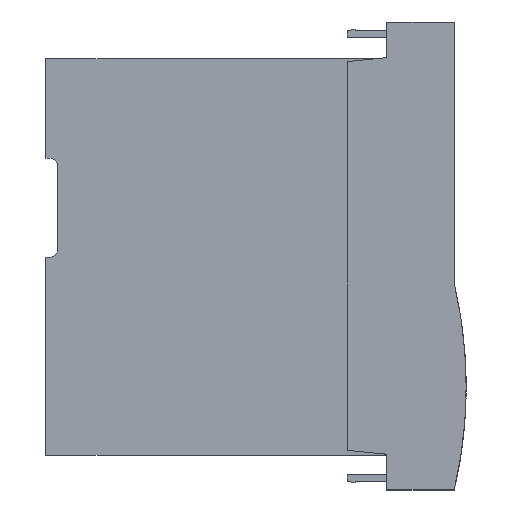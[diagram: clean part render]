
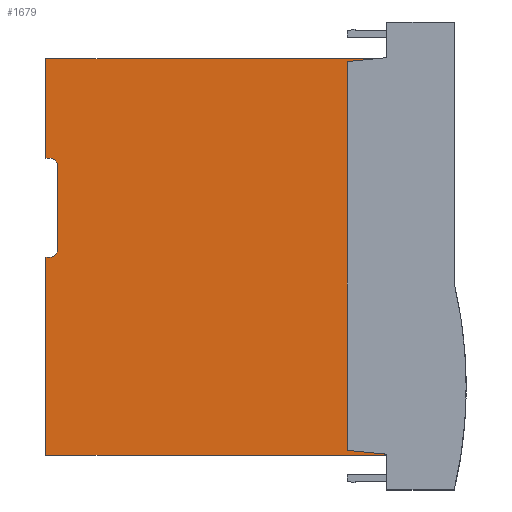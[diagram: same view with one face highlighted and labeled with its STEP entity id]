
A CAD part, top view. The second image highlights one B-rep face of the part: STEP entity #1679.
In plain terms, the highlighted planar face has unit normal (0, 0, 1).
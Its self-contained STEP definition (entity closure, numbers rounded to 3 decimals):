
#11 = CARTESIAN_POINT ( 'NONE',  ( -86.5, 1.69, 6.55 ) ) ;
#24 = AXIS2_PLACEMENT_3D ( 'NONE', #230, #973, #1012 ) ;
#43 = CARTESIAN_POINT ( 'NONE',  ( -3.5, 49.69, 6.55 ) ) ;
#65 = AXIS2_PLACEMENT_3D ( 'NONE', #2839, #3084, #3093 ) ;
#174 = LINE ( 'NONE', #1479, #247 ) ;
#204 = LINE ( 'NONE', #1628, #209 ) ;
#209 = VECTOR ( 'NONE', #1661, 1000. ) ;
#230 = CARTESIAN_POINT ( 'NONE',  ( -88.5, 22.69, 6.55 ) ) ;
#247 = VECTOR ( 'NONE', #1492, 1000. ) ;
#283 = VECTOR ( 'NONE', #1272, 1000. ) ;
#313 = LINE ( 'NONE', #2008, #283 ) ;
#356 = CIRCLE ( 'NONE', #3168, 2. ) ;
#372 = DIRECTION ( 'NONE',  ( 0., -1., 0. ) ) ;
#398 = CARTESIAN_POINT ( 'NONE',  ( -39.837, 24.69, 6.55 ) ) ;
#426 = DIRECTION ( 'NONE',  ( 1., 0., 0. ) ) ;
#427 = ORIENTED_EDGE ( 'NONE', *, *, #1792, .T. ) ;
#442 = LINE ( 'NONE', #3008, #453 ) ;
#453 = VECTOR ( 'NONE', #3029, 1000. ) ;
#468 = CARTESIAN_POINT ( 'NONE',  ( -3.5, -49.69, 6.55 ) ) ;
#494 = ORIENTED_EDGE ( 'NONE', *, *, #1743, .T. ) ;
#576 = VECTOR ( 'NONE', #426, 1000. ) ;
#583 = CIRCLE ( 'NONE', #24, 2. ) ;
#609 = DIRECTION ( 'NONE',  ( 0., -1., 0. ) ) ;
#648 = LINE ( 'NONE', #398, #576 ) ;
#649 = CARTESIAN_POINT ( 'NONE',  ( -3.5, -50.31, 6.55 ) ) ;
#652 = VECTOR ( 'NONE', #2894, 1000. ) ;
#661 = LINE ( 'NONE', #967, #652 ) ;
#734 = FACE_OUTER_BOUND ( 'NONE', #1320, .T. ) ;
#788 = CARTESIAN_POINT ( 'NONE',  ( 10.5, 49.69, 6.55 ) ) ;
#825 = LINE ( 'NONE', #2824, #829 ) ;
#829 = VECTOR ( 'NONE', #2831, 1000. ) ;
#852 = DIRECTION ( 'NONE',  ( 1., 0., 0. ) ) ;
#896 = VECTOR ( 'NONE', #1898, 1000. ) ;
#899 = LINE ( 'NONE', #1850, #896 ) ;
#938 = VERTEX_POINT ( 'NONE', #2248 ) ;
#943 = LINE ( 'NONE', #1509, #947 ) ;
#947 = VECTOR ( 'NONE', #1580, 1000. ) ;
#967 = CARTESIAN_POINT ( 'NONE',  ( -89.5, -0.177, 6.55 ) ) ;
#973 = DIRECTION ( 'NONE',  ( 0., 0., -1. ) ) ;
#974 = VERTEX_POINT ( 'NONE', #2237 ) ;
#980 = CARTESIAN_POINT ( 'NONE',  ( -39.837, -49.69, 6.55 ) ) ;
#993 = VERTEX_POINT ( 'NONE', #2898 ) ;
#1012 = DIRECTION ( 'NONE',  ( 0., -1., 0. ) ) ;
#1021 = LINE ( 'NONE', #980, #1177 ) ;
#1104 = VERTEX_POINT ( 'NONE', #11 ) ;
#1177 = VECTOR ( 'NONE', #852, 1000. ) ;
#1202 = VERTEX_POINT ( 'NONE', #2077 ) ;
#1237 = VERTEX_POINT ( 'NONE', #3049 ) ;
#1239 = EDGE_CURVE ( 'NONE', #1477, #1281, #2891, .T. ) ;
#1246 = VERTEX_POINT ( 'NONE', #3126 ) ;
#1249 = VERTEX_POINT ( 'NONE', #2690 ) ;
#1272 = DIRECTION ( 'NONE',  ( -1., 0., 0. ) ) ;
#1281 = VERTEX_POINT ( 'NONE', #649 ) ;
#1320 = EDGE_LOOP ( 'NONE', ( #3081, #427, #2101, #3138, #2486, #2059, #3278, #2653, #2795, #2513, #494, #2929, #2942 ) ) ;
#1368 = VERTEX_POINT ( 'NONE', #2773 ) ;
#1477 = VERTEX_POINT ( 'NONE', #468 ) ;
#1479 = CARTESIAN_POINT ( 'NONE',  ( -89.5, -0.177, 6.55 ) ) ;
#1492 = DIRECTION ( 'NONE',  ( 0., -1., 0. ) ) ;
#1509 = CARTESIAN_POINT ( 'NONE',  ( 10.5, -0.177, 6.55 ) ) ;
#1580 = DIRECTION ( 'NONE',  ( 0., 1., 0. ) ) ;
#1623 = EDGE_CURVE ( 'NONE', #1477, #993, #1021, .T. ) ;
#1628 = CARTESIAN_POINT ( 'NONE',  ( -39.837, -50.31, 6.55 ) ) ;
#1645 = EDGE_CURVE ( 'NONE', #993, #2040, #943, .T. ) ;
#1650 = EDGE_CURVE ( 'NONE', #2040, #2863, #899, .T. ) ;
#1661 = DIRECTION ( 'NONE',  ( 1., 0., 0. ) ) ;
#1668 = EDGE_CURVE ( 'NONE', #2863, #938, #825, .T. ) ;
#1679 = ADVANCED_FACE ( 'NONE', ( #734 ), #3069, .T. ) ;
#1690 = EDGE_CURVE ( 'NONE', #938, #1202, #661, .T. ) ;
#1708 = EDGE_CURVE ( 'NONE', #1202, #1246, #648, .T. ) ;
#1730 = EDGE_CURVE ( 'NONE', #1246, #1249, #583, .T. ) ;
#1743 = EDGE_CURVE ( 'NONE', #1249, #1104, #442, .T. ) ;
#1760 = EDGE_CURVE ( 'NONE', #1104, #1368, #356, .T. ) ;
#1781 = EDGE_CURVE ( 'NONE', #1368, #1237, #313, .T. ) ;
#1788 = EDGE_CURVE ( 'NONE', #1237, #974, #174, .T. ) ;
#1792 = EDGE_CURVE ( 'NONE', #974, #1281, #204, .T. ) ;
#1850 = CARTESIAN_POINT ( 'NONE',  ( -39.837, 49.69, 6.55 ) ) ;
#1898 = DIRECTION ( 'NONE',  ( -1., 0., 0. ) ) ;
#2008 = CARTESIAN_POINT ( 'NONE',  ( -39.837, -0.31, 6.55 ) ) ;
#2040 = VERTEX_POINT ( 'NONE', #788 ) ;
#2059 = ORIENTED_EDGE ( 'NONE', *, *, #1650, .T. ) ;
#2077 = CARTESIAN_POINT ( 'NONE',  ( -89.5, 24.69, 6.55 ) ) ;
#2101 = ORIENTED_EDGE ( 'NONE', *, *, #1239, .F. ) ;
#2237 = CARTESIAN_POINT ( 'NONE',  ( -89.5, -50.31, 6.55 ) ) ;
#2248 = CARTESIAN_POINT ( 'NONE',  ( -89.5, 49.69, 6.55 ) ) ;
#2486 = ORIENTED_EDGE ( 'NONE', *, *, #1645, .T. ) ;
#2513 = ORIENTED_EDGE ( 'NONE', *, *, #1730, .T. ) ;
#2653 = ORIENTED_EDGE ( 'NONE', *, *, #1690, .T. ) ;
#2690 = CARTESIAN_POINT ( 'NONE',  ( -86.5, 22.69, 6.55 ) ) ;
#2773 = CARTESIAN_POINT ( 'NONE',  ( -88.5, -0.31, 6.55 ) ) ;
#2795 = ORIENTED_EDGE ( 'NONE', *, *, #1708, .T. ) ;
#2824 = CARTESIAN_POINT ( 'NONE',  ( -39.837, 49.69, 6.55 ) ) ;
#2831 = DIRECTION ( 'NONE',  ( -1., 0., 0. ) ) ;
#2839 = CARTESIAN_POINT ( 'NONE',  ( -39.837, -0.177, 6.55 ) ) ;
#2854 = VECTOR ( 'NONE', #609, 1000. ) ;
#2863 = VERTEX_POINT ( 'NONE', #43 ) ;
#2891 = LINE ( 'NONE', #3169, #2854 ) ;
#2894 = DIRECTION ( 'NONE',  ( 0., -1., 0. ) ) ;
#2898 = CARTESIAN_POINT ( 'NONE',  ( 10.5, -49.69, 6.55 ) ) ;
#2929 = ORIENTED_EDGE ( 'NONE', *, *, #1760, .T. ) ;
#2942 = ORIENTED_EDGE ( 'NONE', *, *, #1781, .T. ) ;
#3008 = CARTESIAN_POINT ( 'NONE',  ( -86.5, -0.177, 6.55 ) ) ;
#3021 = CARTESIAN_POINT ( 'NONE',  ( -88.5, 1.69, 6.55 ) ) ;
#3029 = DIRECTION ( 'NONE',  ( 0., -1., 0. ) ) ;
#3049 = CARTESIAN_POINT ( 'NONE',  ( -89.5, -0.31, 6.55 ) ) ;
#3058 = DIRECTION ( 'NONE',  ( 0., 0., -1. ) ) ;
#3069 = PLANE ( 'NONE',  #65 ) ;
#3081 = ORIENTED_EDGE ( 'NONE', *, *, #1788, .T. ) ;
#3084 = DIRECTION ( 'NONE',  ( 0., 0., 1. ) ) ;
#3093 = DIRECTION ( 'NONE',  ( 1., 0., 0. ) ) ;
#3126 = CARTESIAN_POINT ( 'NONE',  ( -88.5, 24.69, 6.55 ) ) ;
#3138 = ORIENTED_EDGE ( 'NONE', *, *, #1623, .T. ) ;
#3168 = AXIS2_PLACEMENT_3D ( 'NONE', #3021, #3058, #372 ) ;
#3169 = CARTESIAN_POINT ( 'NONE',  ( -3.5, -59., 6.55 ) ) ;
#3278 = ORIENTED_EDGE ( 'NONE', *, *, #1668, .T. ) ;
